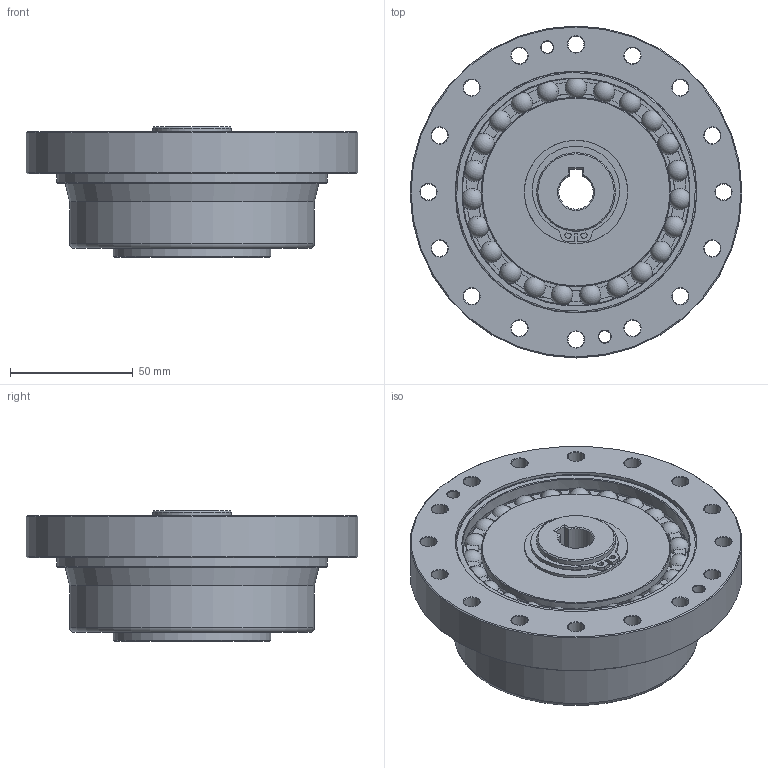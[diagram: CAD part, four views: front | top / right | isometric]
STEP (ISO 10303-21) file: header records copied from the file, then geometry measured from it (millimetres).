
FILE_DESCRIPTION(/* description */ (''),/* implementation_level */ '2;1');
FILE_NAME(/* name */ 'S:\TB00F\研發課二組\機密級\1.設計\01-DT\DT-圖面\2.組合圖\模型\DGC-CO\DGC-40-XXX-CO模型\DGC-40-XXX-CO模型V4.stp',/* time_stamp */ '2024-09-18T18:14:36+08:00',/* author */ ('ted40524246.cheng'),/* organization */ (''),/* preprocessor_version */ 'ST-DEVELOPER v15.2',/* originating_system */ 'Autodesk Inventor 2014',/* authorisation */ '');
FILE_SCHEMA (('AUTOMOTIVE_DESIGN { 1 0 10303 214 3 1 1 }'));
Length unit declared in the file: centimetre
Products named in the file (1): DGC-40-XXX-CO模型
Bounding box: 135 x 135 x 53 mm (x, y, z)
Volume: 273615.3 mm3; surface area: 82825.2 mm2
Topology: 1 solids, 1 shells, 361 faces, 975 edges, 603 vertices
Faces by surface type: cylinder 142, plane 77, cone 70, torus 49, sphere 23
Full cylindrical faces by diameter (mm): 4.917 x4, 6.6 x16, 11 x8, 30.3 x1, 32 x2, 34.145 x1, 42 x1, 64 x1, 67.5 x1, 76.96 x1, 92.35 x1, 98.17 x2, 99.54 x1, 110 x1, 135 x1
Entity records: 10791 total; most frequent: CARTESIAN_POINT 2064, DIRECTION 1960, ORIENTED_EDGE 1604, AXIS2_PLACEMENT_3D 912, EDGE_CURVE 756, CIRCLE 550, EDGE_LOOP 546, VERTEX_POINT 520
